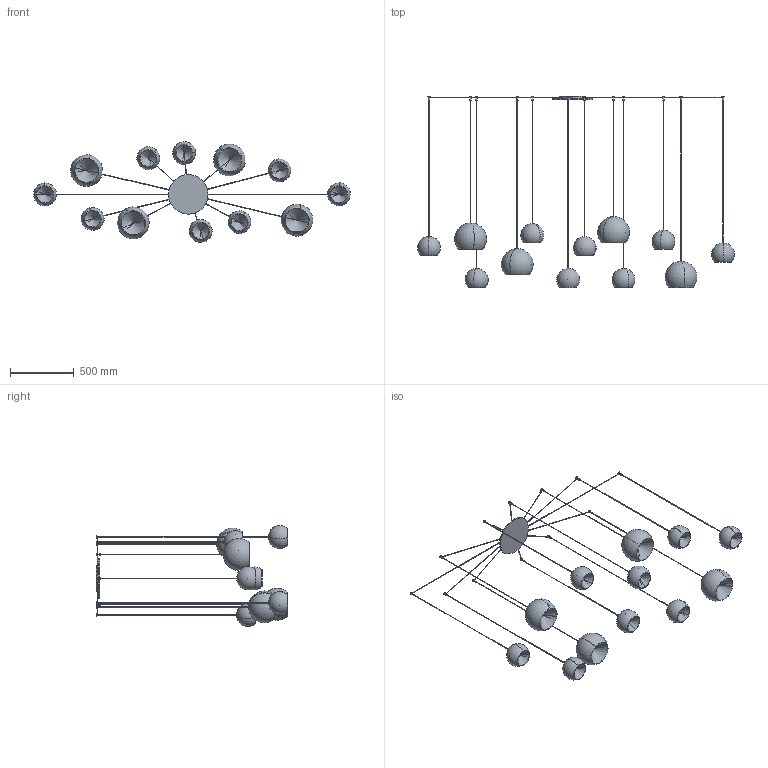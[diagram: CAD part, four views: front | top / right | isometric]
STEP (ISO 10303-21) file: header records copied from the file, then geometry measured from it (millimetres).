
FILE_DESCRIPTION (( 'STEP AP203' ), '1' );
FILE_NAME ('CRMA2-00-CHERRY MIX_12 sospensione.STEP', '2025-05-06T07:35:54', ( '' ), ( '' ), 'SwSTEP 2.0', 'SolidWorks 2022', '' );
FILE_SCHEMA (( 'CONFIG_CONTROL_DESIGN' ));
Length unit declared in the file: millimetre
Products named in the file (11): CHERRY_Lampada singola_Cherry 180 | H=1800; CHERRY_Lampada singola_Cherry 250 | H=1500; CHERRY_Lampada singola_Cherry 180 | H=1750; CHERRY_Lampada singola_Cherry 180 | H=1500; CRMA2-00-CHERRY MIX_12 sospensione; CHERRY_Lampada singola_Cherry 250 | H=1600; CHERRY_Rosone_Cherry 12 (x 4000)<A macchina>; CHERRY_Lampada singola_Cherry 250 | H=1800; CHERRY_Lampada singola_Cherry 180 | H=1850; CHERRY_Lampada singola_Cherry 180 | H=1700; CHERRY_Lampada singola_Cherry 250 | H=1850
Assembly tree (13 placements, depth 2):
  CRMA2-00-CHERRY MIX_12 sospensione
    CHERRY_Rosone_Cherry 12 (x 4000)<A macchina>
    CHERRY_Lampada singola_Cherry 180 | H=1750  x2
    CHERRY_Lampada singola_Cherry 250 | H=1800
    CHERRY_Lampada singola_Cherry 180 | H=1850
    CHERRY_Lampada singola_Cherry 180 | H=1500  x3
    CHERRY_Lampada singola_Cherry 250 | H=1850
    CHERRY_Lampada singola_Cherry 180 | H=1800
    CHERRY_Lampada singola_Cherry 180 | H=1700
    CHERRY_Lampada singola_Cherry 250 | H=1500
    CHERRY_Lampada singola_Cherry 250 | H=1600
Bounding box: 2487 x 1500 x 790.04 mm (x, y, z)
Volume: 4442200.7 mm3; surface area: 3743056.7 mm2
Topology: 61 solids, 61 shells, 449 faces, 1070 edges, 672 vertices
Faces by surface type: cylinder 206, plane 147, sphere 48, cone 48
Entity records: 11017 total; most frequent: CARTESIAN_POINT 2339, DIRECTION 1712, ORIENTED_EDGE 1408, AXIS2_PLACEMENT_3D 761, EDGE_CURVE 704, VERTEX_POINT 468, CIRCLE 392, EDGE_LOOP 390
